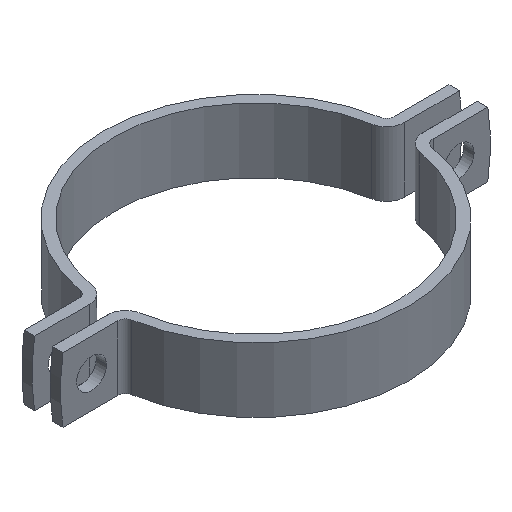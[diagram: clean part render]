
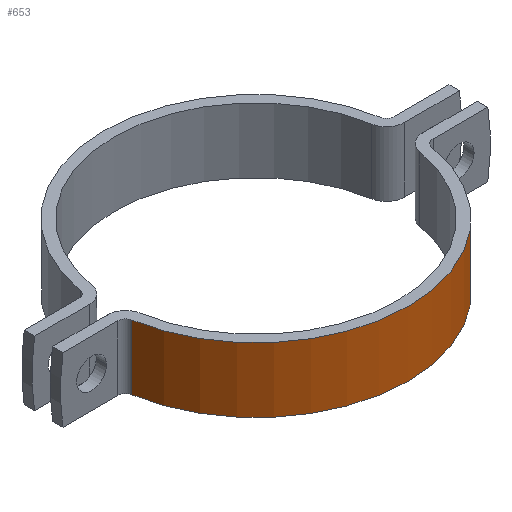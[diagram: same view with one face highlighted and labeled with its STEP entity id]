
A CAD part, isometric view. The second image highlights one B-rep face of the part: STEP entity #653.
In plain terms, the highlighted cylindrical face has radius 117.55 mm (diameter 235.1 mm), a partial arc.
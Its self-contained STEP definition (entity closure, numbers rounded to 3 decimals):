
#4 = FACE_OUTER_BOUND ( 'NONE', #1152, .T. ) ;
#9 = EDGE_CURVE ( 'NONE', #830, #66, #1100, .T. ) ;
#20 = VECTOR ( 'NONE', #799, 1000. ) ;
#60 = EDGE_CURVE ( 'NONE', #830, #914, #1089, .T. ) ;
#66 = VERTEX_POINT ( 'NONE', #1068 ) ;
#100 = CIRCLE ( 'NONE', #655, 117.55 ) ;
#151 = CARTESIAN_POINT ( 'NONE',  ( 115.84, -19.98, -50. ) ) ;
#172 = CARTESIAN_POINT ( 'NONE',  ( 0., 0., -50. ) ) ;
#188 = DIRECTION ( 'NONE',  ( 0., 0., 1. ) ) ;
#189 = ORIENTED_EDGE ( 'NONE', *, *, #60, .F. ) ;
#224 = DIRECTION ( 'NONE',  ( 0., 0., 1. ) ) ;
#245 = LINE ( 'NONE', #151, #972 ) ;
#328 = CARTESIAN_POINT ( 'NONE',  ( -115.84, -19.98, 0. ) ) ;
#368 = ORIENTED_EDGE ( 'NONE', *, *, #9, .T. ) ;
#386 = CYLINDRICAL_SURFACE ( 'NONE', #737, 117.55 ) ;
#392 = EDGE_CURVE ( 'NONE', #914, #1138, #100, .T. ) ;
#415 = CARTESIAN_POINT ( 'NONE',  ( 0., 0., -50. ) ) ;
#425 = AXIS2_PLACEMENT_3D ( 'NONE', #415, #612, #787 ) ;
#446 = DIRECTION ( 'NONE',  ( 0., 0., 1. ) ) ;
#597 = CARTESIAN_POINT ( 'NONE',  ( -115.84, -19.98, -50. ) ) ;
#612 = DIRECTION ( 'NONE',  ( 0., 0., 1. ) ) ;
#624 = EDGE_CURVE ( 'NONE', #66, #1138, #245, .T. ) ;
#653 = ADVANCED_FACE ( 'NONE', ( #4 ), #386, .T. ) ;
#655 = AXIS2_PLACEMENT_3D ( 'NONE', #694, #224, #801 ) ;
#694 = CARTESIAN_POINT ( 'NONE',  ( 0., 0., 0. ) ) ;
#737 = AXIS2_PLACEMENT_3D ( 'NONE', #172, #188, #1051 ) ;
#779 = ORIENTED_EDGE ( 'NONE', *, *, #624, .T. ) ;
#787 = DIRECTION ( 'NONE',  ( 1., 0., 0. ) ) ;
#799 = DIRECTION ( 'NONE',  ( 0., 0., 1. ) ) ;
#801 = DIRECTION ( 'NONE',  ( 1., 0., 0. ) ) ;
#805 = CARTESIAN_POINT ( 'NONE',  ( 115.84, -19.98, 0. ) ) ;
#830 = VERTEX_POINT ( 'NONE', #1173 ) ;
#914 = VERTEX_POINT ( 'NONE', #328 ) ;
#972 = VECTOR ( 'NONE', #446, 1000. ) ;
#1010 = ORIENTED_EDGE ( 'NONE', *, *, #392, .F. ) ;
#1051 = DIRECTION ( 'NONE',  ( 1., 0., 0. ) ) ;
#1068 = CARTESIAN_POINT ( 'NONE',  ( 115.84, -19.98, -50. ) ) ;
#1089 = LINE ( 'NONE', #597, #20 ) ;
#1100 = CIRCLE ( 'NONE', #425, 117.55 ) ;
#1138 = VERTEX_POINT ( 'NONE', #805 ) ;
#1152 = EDGE_LOOP ( 'NONE', ( #1010, #189, #368, #779 ) ) ;
#1173 = CARTESIAN_POINT ( 'NONE',  ( -115.84, -19.98, -50. ) ) ;
